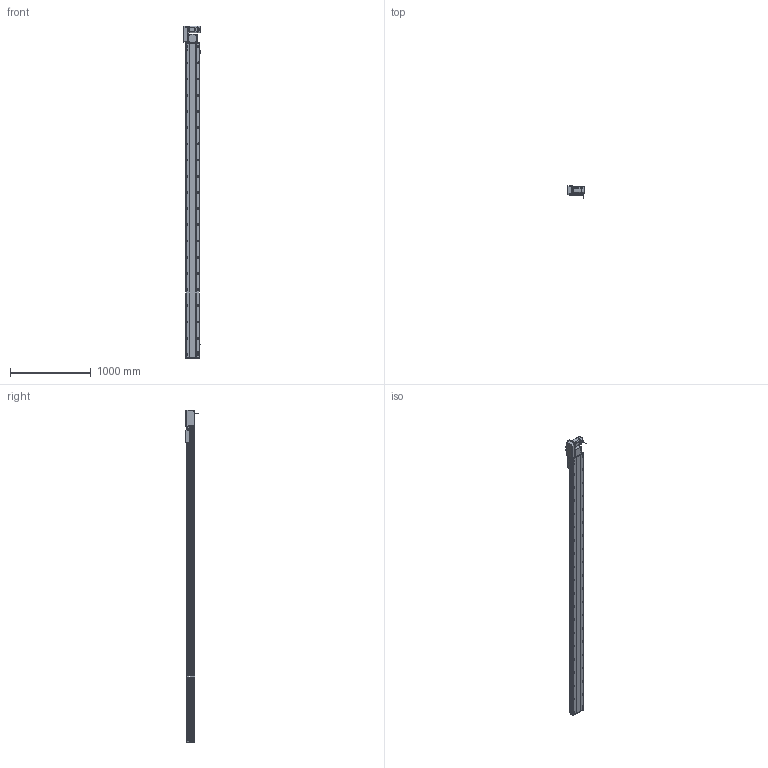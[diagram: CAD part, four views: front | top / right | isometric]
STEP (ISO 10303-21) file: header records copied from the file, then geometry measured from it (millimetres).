
FILE_DESCRIPTION (( 'STEP AP214' ), '1' );
FILE_NAME ('RTB17S-XX-3600-L-M75-C4.STEP', '2025-12-12T00:28:29', ( '' ), ( '' ), 'SwSTEP 2.0', 'SolidWorks 2018', '' );
FILE_SCHEMA (( 'AUTOMOTIVE_DESIGN' ));
Length unit declared in the file: millimetre
Products named in the file (15): 750W萇儂^RTB17S-XX-XX-L-M75-C4; RTB22S-GY-008-M75--萇儂啣^RTB17S-L-々湍釱蚾饜-750W_RTB17S-XX-XX-L-M75-C4; RTB22S-GY-005P^RTB17S-L-々湍釱蚾饜-750W_RTB17S-XX-XX-L-M75-C4; RTB22S-GY-018P^RTB17S-L-々湍釱蚾饜-750W_RTB17S-XX-XX-L-M75-C4; RMP17S-L-014-T20-P75--々湍釱^RTB17S-L-々湍釱蚾饜-750W_RTB17S-XX-XX-L-M75-C4; RTH13-BL-012覜茼え俋离^RTB17S-賑釱_RTB17S-XX-XX-L-M75-C4; RTB17-R-011菁釱^RTB17S-XX-XX-L-M75-C4; RTB17S-L-001-耜醱啣^RTB17S-XX-XX-L-M75-C4; RTB17S-XX-3600-L-M75-C4; RTB22S-GY-017P^RTB17S-L-々湍釱蚾饜-750W_RTB17S-XX-XX-L-M75-C4; RTB17S-L-々湍釱蚾饜-750W^RTB17S-XX-XX-L-M75-C4; RTB17S-賑釱^RTB17S-XX-XX-L-M75-C4; EE672^RTB17S-XX-XX-L-M75-C4; RTB17S-L-007奻裔^RTB17S-XX-XX-L-M75-C4; RTB17S-L-004-賑釱^RTB17S-賑釱_RTB17S-XX-XX-L-M75-C4
Assembly tree (17 placements, depth 3):
  RTB17S-XX-3600-L-M75-C4
    RTB17-R-011菁釱^RTB17S-XX-XX-L-M75-C4
    EE672^RTB17S-XX-XX-L-M75-C4  x3
    RTB17S-L-001-耜醱啣^RTB17S-XX-XX-L-M75-C4
    RTB17S-賑釱^RTB17S-XX-XX-L-M75-C4
      RTB17S-L-004-賑釱^RTB17S-賑釱_RTB17S-XX-XX-L-M75-C4
      RTH13-BL-012覜茼え俋离^RTB17S-賑釱_RTB17S-XX-XX-L-M75-C4
    RTB17S-L-007奻裔^RTB17S-XX-XX-L-M75-C4
    750W萇儂^RTB17S-XX-XX-L-M75-C4
    RTB17S-L-々湍釱蚾饜-750W^RTB17S-XX-XX-L-M75-C4
      RMP17S-L-014-T20-P75--々湍釱^RTB17S-L-々湍釱蚾饜-750W_RTB17S-XX-XX-L-M75-C4
      RTB22S-GY-005P^RTB17S-L-々湍釱蚾饜-750W_RTB17S-XX-XX-L-M75-C4
      RTB22S-GY-017P^RTB17S-L-々湍釱蚾饜-750W_RTB17S-XX-XX-L-M75-C4  x2
      RTB22S-GY-008-M75--萇儂啣^RTB17S-L-々湍釱蚾饜-750W_RTB17S-XX-XX-L-M75-C4
      RTB22S-GY-018P^RTB17S-L-々湍釱蚾饜-750W_RTB17S-XX-XX-L-M75-C4
Bounding box: 210.4 x 152.7 x 4099 mm (x, y, z)
Volume: 28456773.2 mm3; surface area: 5263675.7 mm2
Topology: 17 solids, 17 shells, 2297 faces, 6484 edges, 4202 vertices
Faces by surface type: plane 996, cylinder 885, bspline 294, cone 110, sphere 8, torus 4
Entity records: 68086 total; most frequent: CARTESIAN_POINT 20348, ORIENTED_EDGE 9812, DIRECTION 9032, EDGE_CURVE 4906, AXIS2_PLACEMENT_3D 3222, VERTEX_POINT 3206, LINE 2588, VECTOR 2588
